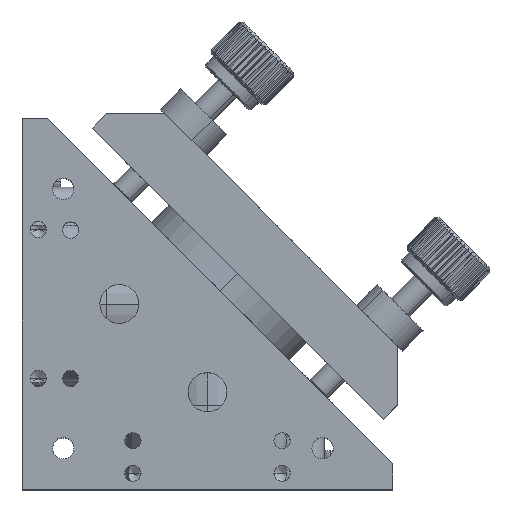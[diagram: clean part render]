
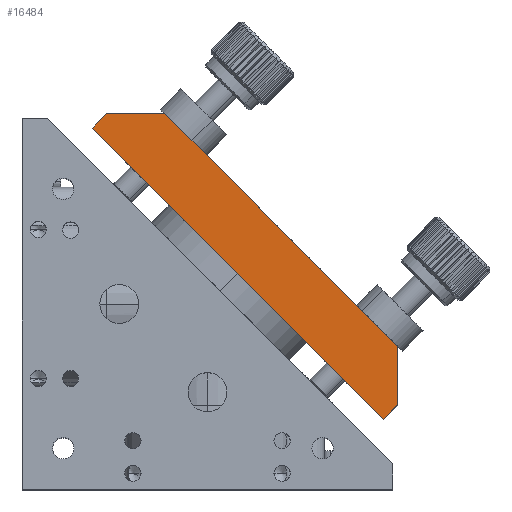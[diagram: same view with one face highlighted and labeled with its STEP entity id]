
A CAD part, top view. The second image highlights one B-rep face of the part: STEP entity #16484.
In plain terms, the highlighted planar face has unit normal (0, 0, 1).
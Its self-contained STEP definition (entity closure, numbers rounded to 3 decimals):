
#475 = CARTESIAN_POINT ( 'NONE',  ( -22.628, -11.117, 25.4 ) ) ;
#538 = CARTESIAN_POINT ( 'NONE',  ( -69.757, 22.577, 25.4 ) ) ;
#638 = CARTESIAN_POINT ( 'NONE',  ( -67.529, 24.804, 25.4 ) ) ;
#803 = CARTESIAN_POINT ( 'NONE',  ( -22.628, -20.097, 25.4 ) ) ;
#842 = CARTESIAN_POINT ( 'NONE',  ( -58.549, 24.804, 25.4 ) ) ;
#3112 = LINE ( 'NONE', #5489, #3117 ) ;
#3117 = VECTOR ( 'NONE', #5513, 1000. ) ;
#4182 = DIRECTION ( 'NONE',  ( -0.707, 0.707, 0. ) ) ;
#4192 = CARTESIAN_POINT ( 'NONE',  ( -58.549, 24.804, 25.4 ) ) ;
#4214 = CARTESIAN_POINT ( 'NONE',  ( -58.549, 24.804, 25.4 ) ) ;
#4215 = DIRECTION ( 'NONE',  ( -1., 0., 0. ) ) ;
#5016 = EDGE_LOOP ( 'NONE', ( #13779, #13826, #13814, #13776, #13791, #13775 ) ) ;
#5489 = CARTESIAN_POINT ( 'NONE',  ( -69.757, 22.577, 25.4 ) ) ;
#5513 = DIRECTION ( 'NONE',  ( 0.707, -0.707, 0. ) ) ;
#7308 = CARTESIAN_POINT ( 'NONE',  ( -47.306, 0.126, 25.4 ) ) ;
#7310 = PLANE ( 'NONE',  #17299 ) ;
#7313 = DIRECTION ( 'NONE',  ( 0., 0., 1. ) ) ;
#7314 = DIRECTION ( 'NONE',  ( 0.707, -0.707, 0. ) ) ;
#7779 = VERTEX_POINT ( 'NONE', #16797 ) ;
#10436 = LINE ( 'NONE', #4192, #10462 ) ;
#10462 = VECTOR ( 'NONE', #4182, 1000. ) ;
#10466 = LINE ( 'NONE', #4214, #10468 ) ;
#10468 = VECTOR ( 'NONE', #4215, 1000. ) ;
#11136 = FACE_OUTER_BOUND ( 'NONE', #5016, .T. ) ;
#11404 = EDGE_CURVE ( 'NONE', #14921, #7779, #3112, .T. ) ;
#11429 = EDGE_CURVE ( 'NONE', #15362, #14921, #13873, .T. ) ;
#11474 = EDGE_CURVE ( 'NONE', #15557, #14822, #13944, .T. ) ;
#11498 = EDGE_CURVE ( 'NONE', #7779, #15557, #13972, .T. ) ;
#13049 = EDGE_CURVE ( 'NONE', #14822, #15596, #10436, .T. ) ;
#13055 = EDGE_CURVE ( 'NONE', #15596, #15362, #10466, .T. ) ;
#13490 = CARTESIAN_POINT ( 'NONE',  ( -24.855, -22.324, 25.4 ) ) ;
#13540 = DIRECTION ( 'NONE',  ( 0.707, 0.707, 0. ) ) ;
#13775 = ORIENTED_EDGE ( 'NONE', *, *, #13049, .T. ) ;
#13776 = ORIENTED_EDGE ( 'NONE', *, *, #11498, .T. ) ;
#13779 = ORIENTED_EDGE ( 'NONE', *, *, #13055, .T. ) ;
#13791 = ORIENTED_EDGE ( 'NONE', *, *, #11474, .T. ) ;
#13814 = ORIENTED_EDGE ( 'NONE', *, *, #11404, .T. ) ;
#13826 = ORIENTED_EDGE ( 'NONE', *, *, #11429, .T. ) ;
#13873 = LINE ( 'NONE', #17644, #13877 ) ;
#13877 = VECTOR ( 'NONE', #17687, 1000. ) ;
#13944 = LINE ( 'NONE', #16207, #13948 ) ;
#13948 = VECTOR ( 'NONE', #16190, 1000. ) ;
#13972 = LINE ( 'NONE', #13490, #13982 ) ;
#13982 = VECTOR ( 'NONE', #13540, 1000. ) ;
#14822 = VERTEX_POINT ( 'NONE', #475 ) ;
#14921 = VERTEX_POINT ( 'NONE', #538 ) ;
#15362 = VERTEX_POINT ( 'NONE', #638 ) ;
#15557 = VERTEX_POINT ( 'NONE', #803 ) ;
#15596 = VERTEX_POINT ( 'NONE', #842 ) ;
#16190 = DIRECTION ( 'NONE',  ( 0., 1., 0. ) ) ;
#16207 = CARTESIAN_POINT ( 'NONE',  ( -22.628, -11.117, 25.4 ) ) ;
#16484 = ADVANCED_FACE ( 'NONE', ( #11136 ), #7310, .T. ) ;
#16797 = CARTESIAN_POINT ( 'NONE',  ( -24.855, -22.324, 25.4 ) ) ;
#17299 = AXIS2_PLACEMENT_3D ( 'NONE', #7308, #7313, #7314 ) ;
#17644 = CARTESIAN_POINT ( 'NONE',  ( -69.757, 22.577, 25.4 ) ) ;
#17687 = DIRECTION ( 'NONE',  ( -0.707, -0.707, 0. ) ) ;
